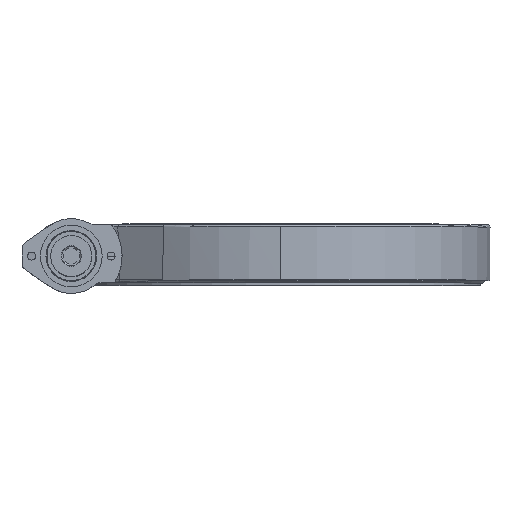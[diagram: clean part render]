
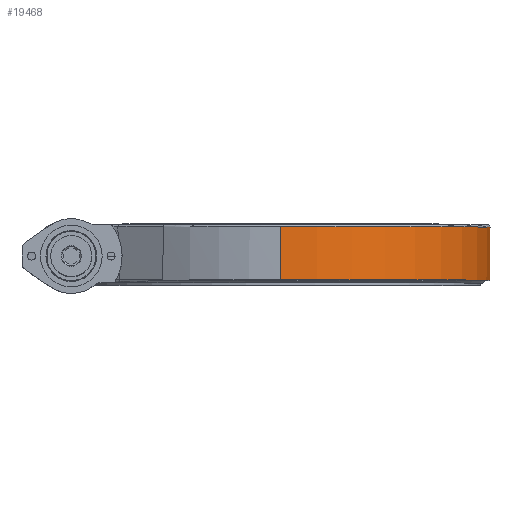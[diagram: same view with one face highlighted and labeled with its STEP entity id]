
A CAD part, top view. The second image highlights one B-rep face of the part: STEP entity #19468.
In plain terms, the highlighted conical face has half-angle 0.372 degrees and reference radius 280.5 mm.
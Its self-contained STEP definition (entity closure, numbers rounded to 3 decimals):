
#686 = CARTESIAN_POINT ( 'NONE',  ( 280.48, 38.981, 0. ) ) ;
#1641 = CIRCLE ( 'NONE', #2365, 280.48 ) ;
#2070 = AXIS2_PLACEMENT_3D ( 'NONE', #23095, #23211, #23084 ) ;
#2214 = CIRCLE ( 'NONE', #2070, 280.019 ) ;
#2365 = AXIS2_PLACEMENT_3D ( 'NONE', #23345, #23031, #23419 ) ;
#4922 = VECTOR ( 'NONE', #13870, 1000. ) ;
#5401 = AXIS2_PLACEMENT_3D ( 'NONE', #14161, #14071, #14024 ) ;
#5403 = CONICAL_SURFACE ( 'NONE', #5401, 280.5, 0.006 ) ;
#7084 = AXIS2_PLACEMENT_3D ( 'NONE', #16870, #16929, #16973 ) ;
#7089 = CIRCLE ( 'NONE', #7084, 280.48 ) ;
#7321 = ORIENTED_EDGE ( 'NONE', *, *, #19091, .F. ) ;
#7543 = ORIENTED_EDGE ( 'NONE', *, *, #20558, .T. ) ;
#7766 = ORIENTED_EDGE ( 'NONE', *, *, #19657, .T. ) ;
#7788 = ORIENTED_EDGE ( 'NONE', *, *, #19759, .T. ) ;
#7969 = ORIENTED_EDGE ( 'NONE', *, *, #20583, .T. ) ;
#9256 = EDGE_LOOP ( 'NONE', ( #7543, #7766, #7969, #7788, #7321 ) ) ;
#9723 = VERTEX_POINT ( 'NONE', #21164 ) ;
#9731 = VERTEX_POINT ( 'NONE', #21139 ) ;
#9758 = VERTEX_POINT ( 'NONE', #21114 ) ;
#9804 = VERTEX_POINT ( 'NONE', #21765 ) ;
#9983 = VECTOR ( 'NONE', #15375, 1000. ) ;
#13787 = FACE_OUTER_BOUND ( 'NONE', #9256, .T. ) ;
#13870 = DIRECTION ( 'NONE',  ( 0., 1., -0.006 ) ) ;
#13872 = CARTESIAN_POINT ( 'NONE',  ( 0., 42., -280.5 ) ) ;
#13877 = LINE ( 'NONE', #13872, #4922 ) ;
#14024 = DIRECTION ( 'NONE',  ( 0., 0., 1. ) ) ;
#14071 = DIRECTION ( 'NONE',  ( 0., 1., 0. ) ) ;
#14161 = CARTESIAN_POINT ( 'NONE',  ( 0., 42., 0. ) ) ;
#15375 = DIRECTION ( 'NONE',  ( 0., 1., 0.006 ) ) ;
#15407 = CARTESIAN_POINT ( 'NONE',  ( 0., 42., 280.5 ) ) ;
#15473 = LINE ( 'NONE', #15407, #9983 ) ;
#16870 = CARTESIAN_POINT ( 'NONE',  ( 0., 38.981, 0. ) ) ;
#16929 = DIRECTION ( 'NONE',  ( 0., -1., 0. ) ) ;
#16973 = DIRECTION ( 'NONE',  ( 0., 0., 1. ) ) ;
#19091 = EDGE_CURVE ( 'NONE', #9731, #9758, #15473, .T. ) ;
#19355 = VERTEX_POINT ( 'NONE', #686 ) ;
#19468 = ADVANCED_FACE ( 'NONE', ( #13787 ), #5403, .T. ) ;
#19657 = EDGE_CURVE ( 'NONE', #9723, #9804, #13877, .T. ) ;
#19759 = EDGE_CURVE ( 'NONE', #19355, #9758, #7089, .T. ) ;
#20558 = EDGE_CURVE ( 'NONE', #9731, #9723, #2214, .T. ) ;
#20583 = EDGE_CURVE ( 'NONE', #9804, #19355, #1641, .T. ) ;
#21114 = CARTESIAN_POINT ( 'NONE',  ( 0., 38.981, 280.48 ) ) ;
#21139 = CARTESIAN_POINT ( 'NONE',  ( 0., -32.019, 280.019 ) ) ;
#21164 = CARTESIAN_POINT ( 'NONE',  ( 0., -32.019, -280.019 ) ) ;
#21765 = CARTESIAN_POINT ( 'NONE',  ( 0., 38.981, -280.48 ) ) ;
#23031 = DIRECTION ( 'NONE',  ( 0., -1., 0. ) ) ;
#23084 = DIRECTION ( 'NONE',  ( 0., 0., 1. ) ) ;
#23095 = CARTESIAN_POINT ( 'NONE',  ( 0., -32.019, 0. ) ) ;
#23211 = DIRECTION ( 'NONE',  ( 0., 1., 0. ) ) ;
#23345 = CARTESIAN_POINT ( 'NONE',  ( 0., 38.981, 0. ) ) ;
#23419 = DIRECTION ( 'NONE',  ( 0., 0., 1. ) ) ;
